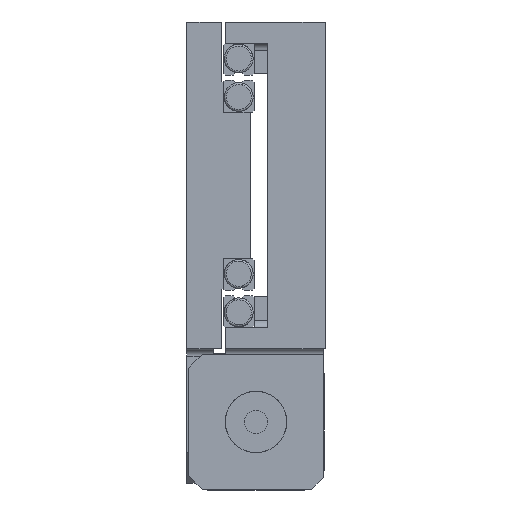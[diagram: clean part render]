
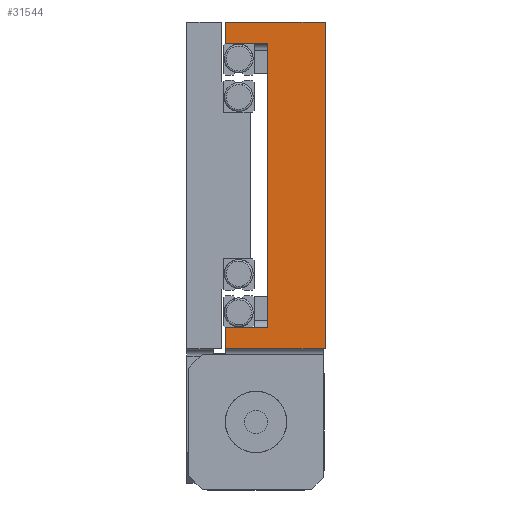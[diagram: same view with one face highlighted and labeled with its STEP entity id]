
A CAD part, left-side view. The second image highlights one B-rep face of the part: STEP entity #31544.
In plain terms, the highlighted planar face has unit normal (-1, 0, 0).
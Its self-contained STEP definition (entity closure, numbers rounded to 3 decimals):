
#180 = FACE_OUTER_BOUND ( 'NONE', #15089, .T. ) ;
#974 = VECTOR ( 'NONE', #30228, 1000. ) ;
#1087 = DIRECTION ( 'NONE',  ( 0., 0., 1. ) ) ;
#1336 = CARTESIAN_POINT ( 'NONE',  ( -240., 26., -37. ) ) ;
#1740 = ORIENTED_EDGE ( 'NONE', *, *, #18411, .F. ) ;
#1930 = EDGE_CURVE ( 'NONE', #26427, #12975, #30066, .T. ) ;
#2323 = DIRECTION ( 'NONE',  ( 0., 1., 0. ) ) ;
#2368 = ORIENTED_EDGE ( 'NONE', *, *, #15822, .F. ) ;
#2532 = VERTEX_POINT ( 'NONE', #25299 ) ;
#2994 = VERTEX_POINT ( 'NONE', #13741 ) ;
#3131 = CARTESIAN_POINT ( 'NONE',  ( -240., 0., 42.5 ) ) ;
#4845 = LINE ( 'NONE', #26092, #14888 ) ;
#5626 = ORIENTED_EDGE ( 'NONE', *, *, #8036, .F. ) ;
#5803 = VECTOR ( 'NONE', #2323, 1000. ) ;
#6411 = CARTESIAN_POINT ( 'NONE',  ( -240., 0., -42.5 ) ) ;
#6554 = CARTESIAN_POINT ( 'NONE',  ( -240., 26., 37. ) ) ;
#7012 = PLANE ( 'NONE',  #18992 ) ;
#7639 = CARTESIAN_POINT ( 'NONE',  ( -240., 26., 42.5 ) ) ;
#7907 = CARTESIAN_POINT ( 'NONE',  ( -240., 26., 42.5 ) ) ;
#8036 = EDGE_CURVE ( 'NONE', #26306, #14301, #14299, .T. ) ;
#8203 = DIRECTION ( 'NONE',  ( 0., 0., 1. ) ) ;
#9956 = CARTESIAN_POINT ( 'NONE',  ( -240., 0., -42.5 ) ) ;
#10521 = CARTESIAN_POINT ( 'NONE',  ( -240., 26., -42.5 ) ) ;
#11603 = DIRECTION ( 'NONE',  ( 0., 1., 0. ) ) ;
#12054 = DIRECTION ( 'NONE',  ( 0., 0., 1. ) ) ;
#12798 = ORIENTED_EDGE ( 'NONE', *, *, #23722, .F. ) ;
#12975 = VERTEX_POINT ( 'NONE', #1336 ) ;
#13056 = VERTEX_POINT ( 'NONE', #6554 ) ;
#13741 = CARTESIAN_POINT ( 'NONE',  ( -240., 0., 42.5 ) ) ;
#14146 = DIRECTION ( 'NONE',  ( 0., -1., 0. ) ) ;
#14299 = LINE ( 'NONE', #9956, #5803 ) ;
#14301 = VERTEX_POINT ( 'NONE', #10521 ) ;
#14888 = VECTOR ( 'NONE', #12054, 1000. ) ;
#14979 = DIRECTION ( 'NONE',  ( 0., 0., 1. ) ) ;
#15089 = EDGE_LOOP ( 'NONE', ( #12798, #29631, #1740, #5626, #27717, #28031, #18572, #2368 ) ) ;
#15166 = VECTOR ( 'NONE', #1087, 1000. ) ;
#15246 = EDGE_CURVE ( 'NONE', #13056, #30562, #4845, .T. ) ;
#15716 = LINE ( 'NONE', #27988, #29646 ) ;
#15822 = EDGE_CURVE ( 'NONE', #2532, #13056, #18222, .T. ) ;
#17222 = CARTESIAN_POINT ( 'NONE',  ( -240., 15., -29. ) ) ;
#18222 = LINE ( 'NONE', #23758, #28178 ) ;
#18411 = EDGE_CURVE ( 'NONE', #14301, #12975, #15716, .T. ) ;
#18572 = ORIENTED_EDGE ( 'NONE', *, *, #15246, .F. ) ;
#18992 = AXIS2_PLACEMENT_3D ( 'NONE', #7639, #23938, #24089 ) ;
#21347 = CARTESIAN_POINT ( 'NONE',  ( -240., 26., 42.5 ) ) ;
#23722 = EDGE_CURVE ( 'NONE', #26427, #2532, #29479, .T. ) ;
#23758 = CARTESIAN_POINT ( 'NONE',  ( -240., 18.5, 37. ) ) ;
#23938 = DIRECTION ( 'NONE',  ( 1., 0., 0. ) ) ;
#24089 = DIRECTION ( 'NONE',  ( 0., 0., -1. ) ) ;
#24931 = EDGE_CURVE ( 'NONE', #26306, #2994, #25020, .T. ) ;
#24990 = EDGE_CURVE ( 'NONE', #30562, #2994, #28677, .T. ) ;
#25020 = LINE ( 'NONE', #3131, #15166 ) ;
#25299 = CARTESIAN_POINT ( 'NONE',  ( -240., 15., 37. ) ) ;
#25739 = CARTESIAN_POINT ( 'NONE',  ( -240., 18.5, -37. ) ) ;
#26092 = CARTESIAN_POINT ( 'NONE',  ( -240., 26., 42.5 ) ) ;
#26306 = VERTEX_POINT ( 'NONE', #6411 ) ;
#26427 = VERTEX_POINT ( 'NONE', #26705 ) ;
#26705 = CARTESIAN_POINT ( 'NONE',  ( -240., 15., -37. ) ) ;
#26803 = VECTOR ( 'NONE', #14979, 1000. ) ;
#27717 = ORIENTED_EDGE ( 'NONE', *, *, #24931, .T. ) ;
#27988 = CARTESIAN_POINT ( 'NONE',  ( -240., 26., 42.5 ) ) ;
#28031 = ORIENTED_EDGE ( 'NONE', *, *, #24990, .F. ) ;
#28178 = VECTOR ( 'NONE', #11603, 1000. ) ;
#28677 = LINE ( 'NONE', #21347, #28927 ) ;
#28927 = VECTOR ( 'NONE', #14146, 1000. ) ;
#29479 = LINE ( 'NONE', #17222, #26803 ) ;
#29631 = ORIENTED_EDGE ( 'NONE', *, *, #1930, .T. ) ;
#29646 = VECTOR ( 'NONE', #8203, 1000. ) ;
#30066 = LINE ( 'NONE', #25739, #974 ) ;
#30228 = DIRECTION ( 'NONE',  ( 0., 1., 0. ) ) ;
#30562 = VERTEX_POINT ( 'NONE', #7907 ) ;
#31544 = ADVANCED_FACE ( 'NONE', ( #180 ), #7012, .F. ) ;
